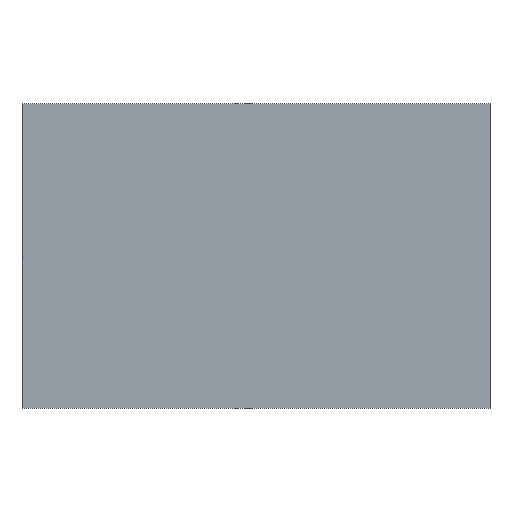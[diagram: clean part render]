
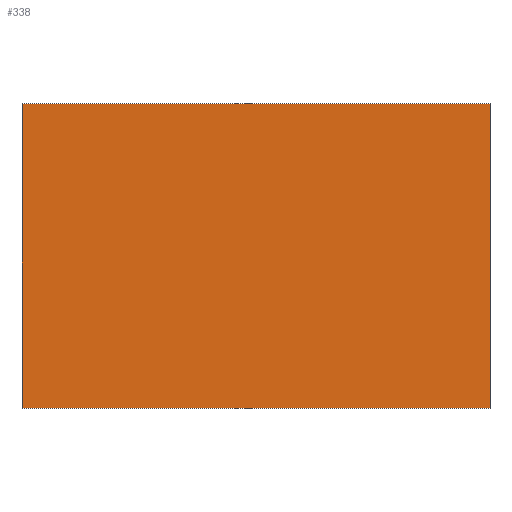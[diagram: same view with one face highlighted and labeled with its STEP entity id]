
A CAD part, top view. The second image highlights one B-rep face of the part: STEP entity #338.
In plain terms, the highlighted planar face has unit normal (0, 0, 1).
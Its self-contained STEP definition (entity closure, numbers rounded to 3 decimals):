
#24 = VERTEX_POINT('',#25);
#25 = CARTESIAN_POINT('',(-332.,-216.,9.));
#32 = PLANE('',#33);
#33 = AXIS2_PLACEMENT_3D('',#34,#35,#36);
#34 = CARTESIAN_POINT('',(-332.,-216.,-9.));
#35 = DIRECTION('',(1.,0.,0.));
#36 = DIRECTION('',(0.,0.,1.));
#44 = PLANE('',#45);
#45 = AXIS2_PLACEMENT_3D('',#46,#47,#48);
#46 = CARTESIAN_POINT('',(-332.,-216.,-9.));
#47 = DIRECTION('',(0.,1.,0.));
#48 = DIRECTION('',(0.,0.,1.));
#85 = VERTEX_POINT('',#86);
#86 = CARTESIAN_POINT('',(-332.,216.,9.));
#100 = PLANE('',#101);
#101 = AXIS2_PLACEMENT_3D('',#102,#103,#104);
#102 = CARTESIAN_POINT('',(-332.,216.,-9.));
#103 = DIRECTION('',(0.,1.,0.));
#104 = DIRECTION('',(0.,0.,1.));
#112 = EDGE_CURVE('',#24,#85,#113,.T.);
#113 = SURFACE_CURVE('',#114,(#118,#125),.PCURVE_S1.);
#114 = LINE('',#115,#116);
#115 = CARTESIAN_POINT('',(-332.,-216.,9.));
#116 = VECTOR('',#117,1.);
#117 = DIRECTION('',(0.,1.,0.));
#118 = PCURVE('',#32,#119);
#119 = DEFINITIONAL_REPRESENTATION('',(#120),#124);
#120 = LINE('',#121,#122);
#121 = CARTESIAN_POINT('',(18.,0.));
#122 = VECTOR('',#123,1.);
#123 = DIRECTION('',(0.,-1.));
#124 = ( GEOMETRIC_REPRESENTATION_CONTEXT(2) 
PARAMETRIC_REPRESENTATION_CONTEXT() REPRESENTATION_CONTEXT('2D SPACE',''
  ) );
#125 = PCURVE('',#126,#131);
#126 = PLANE('',#127);
#127 = AXIS2_PLACEMENT_3D('',#128,#129,#130);
#128 = CARTESIAN_POINT('',(-332.,-216.,9.));
#129 = DIRECTION('',(0.,0.,1.));
#130 = DIRECTION('',(1.,0.,0.));
#131 = DEFINITIONAL_REPRESENTATION('',(#132),#136);
#132 = LINE('',#133,#134);
#133 = CARTESIAN_POINT('',(0.,0.));
#134 = VECTOR('',#135,1.);
#135 = DIRECTION('',(0.,1.));
#136 = ( GEOMETRIC_REPRESENTATION_CONTEXT(2) 
PARAMETRIC_REPRESENTATION_CONTEXT() REPRESENTATION_CONTEXT('2D SPACE',''
  ) );
#144 = VERTEX_POINT('',#145);
#145 = CARTESIAN_POINT('',(332.,-216.,9.));
#152 = PLANE('',#153);
#153 = AXIS2_PLACEMENT_3D('',#154,#155,#156);
#154 = CARTESIAN_POINT('',(332.,-216.,-9.));
#155 = DIRECTION('',(1.,0.,0.));
#156 = DIRECTION('',(0.,0.,1.));
#195 = VERTEX_POINT('',#196);
#196 = CARTESIAN_POINT('',(332.,216.,9.));
#217 = EDGE_CURVE('',#144,#195,#218,.T.);
#218 = SURFACE_CURVE('',#219,(#223,#230),.PCURVE_S1.);
#219 = LINE('',#220,#221);
#220 = CARTESIAN_POINT('',(332.,-216.,9.));
#221 = VECTOR('',#222,1.);
#222 = DIRECTION('',(0.,1.,0.));
#223 = PCURVE('',#152,#224);
#224 = DEFINITIONAL_REPRESENTATION('',(#225),#229);
#225 = LINE('',#226,#227);
#226 = CARTESIAN_POINT('',(18.,0.));
#227 = VECTOR('',#228,1.);
#228 = DIRECTION('',(0.,-1.));
#229 = ( GEOMETRIC_REPRESENTATION_CONTEXT(2) 
PARAMETRIC_REPRESENTATION_CONTEXT() REPRESENTATION_CONTEXT('2D SPACE',''
  ) );
#230 = PCURVE('',#126,#231);
#231 = DEFINITIONAL_REPRESENTATION('',(#232),#236);
#232 = LINE('',#233,#234);
#233 = CARTESIAN_POINT('',(664.,0.));
#234 = VECTOR('',#235,1.);
#235 = DIRECTION('',(0.,1.));
#236 = ( GEOMETRIC_REPRESENTATION_CONTEXT(2) 
PARAMETRIC_REPRESENTATION_CONTEXT() REPRESENTATION_CONTEXT('2D SPACE',''
  ) );
#263 = EDGE_CURVE('',#24,#144,#264,.T.);
#264 = SURFACE_CURVE('',#265,(#269,#276),.PCURVE_S1.);
#265 = LINE('',#266,#267);
#266 = CARTESIAN_POINT('',(-332.,-216.,9.));
#267 = VECTOR('',#268,1.);
#268 = DIRECTION('',(1.,0.,0.));
#269 = PCURVE('',#44,#270);
#270 = DEFINITIONAL_REPRESENTATION('',(#271),#275);
#271 = LINE('',#272,#273);
#272 = CARTESIAN_POINT('',(18.,0.));
#273 = VECTOR('',#274,1.);
#274 = DIRECTION('',(0.,1.));
#275 = ( GEOMETRIC_REPRESENTATION_CONTEXT(2) 
PARAMETRIC_REPRESENTATION_CONTEXT() REPRESENTATION_CONTEXT('2D SPACE',''
  ) );
#276 = PCURVE('',#126,#277);
#277 = DEFINITIONAL_REPRESENTATION('',(#278),#282);
#278 = LINE('',#279,#280);
#279 = CARTESIAN_POINT('',(0.,0.));
#280 = VECTOR('',#281,1.);
#281 = DIRECTION('',(1.,0.));
#282 = ( GEOMETRIC_REPRESENTATION_CONTEXT(2) 
PARAMETRIC_REPRESENTATION_CONTEXT() REPRESENTATION_CONTEXT('2D SPACE',''
  ) );
#310 = EDGE_CURVE('',#85,#195,#311,.T.);
#311 = SURFACE_CURVE('',#312,(#316,#323),.PCURVE_S1.);
#312 = LINE('',#313,#314);
#313 = CARTESIAN_POINT('',(-332.,216.,9.));
#314 = VECTOR('',#315,1.);
#315 = DIRECTION('',(1.,0.,0.));
#316 = PCURVE('',#100,#317);
#317 = DEFINITIONAL_REPRESENTATION('',(#318),#322);
#318 = LINE('',#319,#320);
#319 = CARTESIAN_POINT('',(18.,0.));
#320 = VECTOR('',#321,1.);
#321 = DIRECTION('',(0.,1.));
#322 = ( GEOMETRIC_REPRESENTATION_CONTEXT(2) 
PARAMETRIC_REPRESENTATION_CONTEXT() REPRESENTATION_CONTEXT('2D SPACE',''
  ) );
#323 = PCURVE('',#126,#324);
#324 = DEFINITIONAL_REPRESENTATION('',(#325),#329);
#325 = LINE('',#326,#327);
#326 = CARTESIAN_POINT('',(0.,432.));
#327 = VECTOR('',#328,1.);
#328 = DIRECTION('',(1.,0.));
#329 = ( GEOMETRIC_REPRESENTATION_CONTEXT(2) 
PARAMETRIC_REPRESENTATION_CONTEXT() REPRESENTATION_CONTEXT('2D SPACE',''
  ) );
#338 = ADVANCED_FACE('',(#339),#126,.T.);
#339 = FACE_BOUND('',#340,.T.);
#340 = EDGE_LOOP('',(#341,#342,#343,#344));
#341 = ORIENTED_EDGE('',*,*,#112,.F.);
#342 = ORIENTED_EDGE('',*,*,#263,.T.);
#343 = ORIENTED_EDGE('',*,*,#217,.T.);
#344 = ORIENTED_EDGE('',*,*,#310,.F.);
